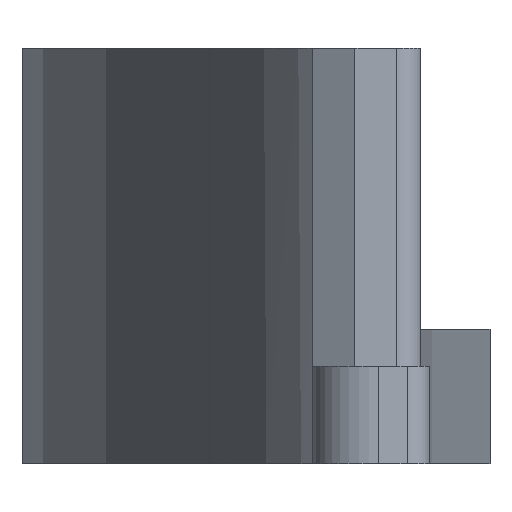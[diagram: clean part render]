
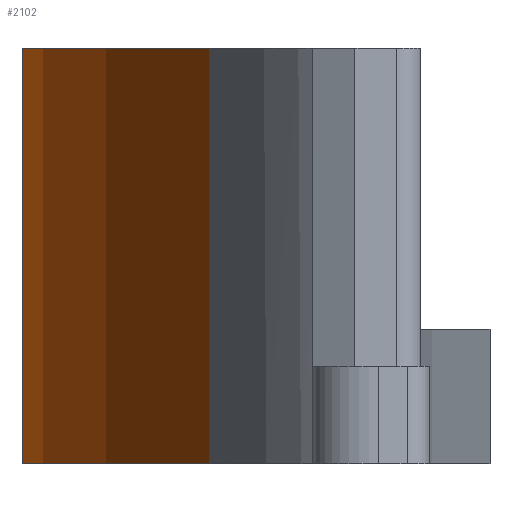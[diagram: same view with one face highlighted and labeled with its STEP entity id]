
A CAD part, left-side view. The second image highlights one B-rep face of the part: STEP entity #2102.
In plain terms, the highlighted cylindrical face has radius 25.573 mm (diameter 51.145 mm), a partial arc.
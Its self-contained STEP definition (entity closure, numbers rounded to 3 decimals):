
#29 = VERTEX_POINT ( 'NONE', #351 ) ;
#40 = DIRECTION ( 'NONE',  ( 1., 0., 0. ) ) ;
#100 = ORIENTED_EDGE ( 'NONE', *, *, #870, .T. ) ;
#103 = DIRECTION ( 'NONE',  ( 0., 0., -1. ) ) ;
#157 = VERTEX_POINT ( 'NONE', #1789 ) ;
#190 = EDGE_LOOP ( 'NONE', ( #1895, #297, #100, #355 ) ) ;
#231 = CIRCLE ( 'NONE', #1111, 25.573 ) ;
#270 = CARTESIAN_POINT ( 'NONE',  ( -28.349, 0.33, 0. ) ) ;
#297 = ORIENTED_EDGE ( 'NONE', *, *, #621, .F. ) ;
#351 = CARTESIAN_POINT ( 'NONE',  ( -28.349, 0.33, 6.8 ) ) ;
#355 = ORIENTED_EDGE ( 'NONE', *, *, #2194, .T. ) ;
#413 = AXIS2_PLACEMENT_3D ( 'NONE', #920, #1875, #40 ) ;
#490 = CARTESIAN_POINT ( 'NONE',  ( -16.2, 3.4, 6.8 ) ) ;
#541 = DIRECTION ( 'NONE',  ( 0., 0., -1. ) ) ;
#601 = DIRECTION ( 'NONE',  ( 0., 0., -1. ) ) ;
#621 = EDGE_CURVE ( 'NONE', #29, #762, #1139, .T. ) ;
#750 = DIRECTION ( 'NONE',  ( 1., 0., 0. ) ) ;
#760 = VECTOR ( 'NONE', #541, 1000. ) ;
#762 = VERTEX_POINT ( 'NONE', #270 ) ;
#821 = CARTESIAN_POINT ( 'NONE',  ( -16.2, -22.173, 6.8 ) ) ;
#870 = EDGE_CURVE ( 'NONE', #29, #157, #231, .T. ) ;
#883 = LINE ( 'NONE', #490, #760 ) ;
#907 = CARTESIAN_POINT ( 'NONE',  ( -16.2, 3.4, 0. ) ) ;
#920 = CARTESIAN_POINT ( 'NONE',  ( -16.2, -22.173, 0. ) ) ;
#960 = VECTOR ( 'NONE', #1514, 1000. ) ;
#1029 = CIRCLE ( 'NONE', #413, 25.573 ) ;
#1108 = CARTESIAN_POINT ( 'NONE',  ( -28.349, 0.33, 6.8 ) ) ;
#1111 = AXIS2_PLACEMENT_3D ( 'NONE', #1672, #601, #750 ) ;
#1139 = LINE ( 'NONE', #1108, #960 ) ;
#1204 = DIRECTION ( 'NONE',  ( -1., 0., 0. ) ) ;
#1218 = VERTEX_POINT ( 'NONE', #907 ) ;
#1287 = EDGE_CURVE ( 'NONE', #762, #1218, #1029, .T. ) ;
#1341 = FACE_OUTER_BOUND ( 'NONE', #190, .T. ) ;
#1514 = DIRECTION ( 'NONE',  ( 0., 0., -1. ) ) ;
#1672 = CARTESIAN_POINT ( 'NONE',  ( -16.2, -22.173, 6.8 ) ) ;
#1718 = CYLINDRICAL_SURFACE ( 'NONE', #2123, 25.573 ) ;
#1789 = CARTESIAN_POINT ( 'NONE',  ( -16.2, 3.4, 6.8 ) ) ;
#1875 = DIRECTION ( 'NONE',  ( 0., 0., -1. ) ) ;
#1895 = ORIENTED_EDGE ( 'NONE', *, *, #1287, .F. ) ;
#2102 = ADVANCED_FACE ( 'NONE', ( #1341 ), #1718, .T. ) ;
#2123 = AXIS2_PLACEMENT_3D ( 'NONE', #821, #103, #1204 ) ;
#2194 = EDGE_CURVE ( 'NONE', #157, #1218, #883, .T. ) ;
